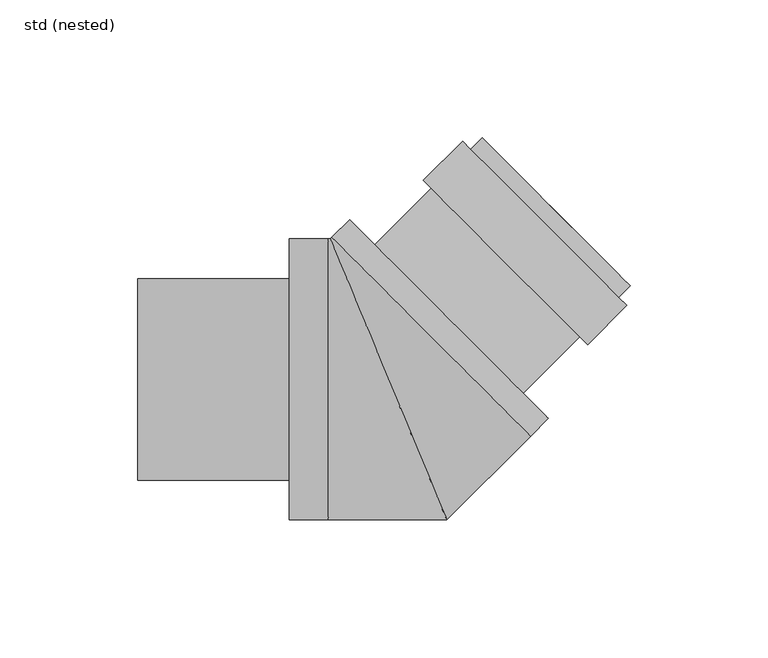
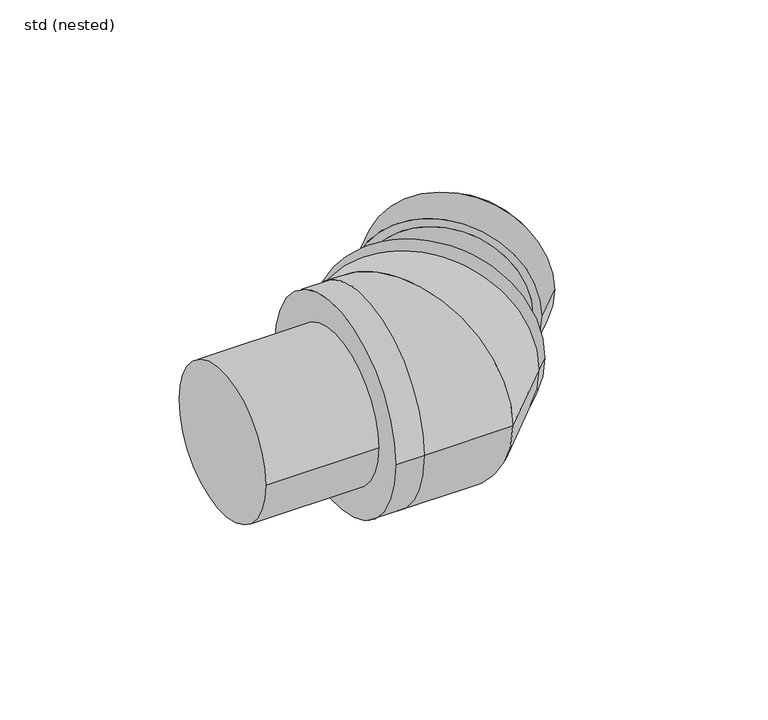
"""IFC4 building model written with IfcOpenShell, lengths in millimetres: pipe fitting geometry, ZZZ_do not use_PIF_ST_WPB_GM-X compound pipe bend_ACO : std (nested)."""

from ifc_helpers import new_model, si_unit, point, frame, origin, origin_2d, place, context, project, spatial, polyline, circle_curve, ellipse_curve, trimmed, segment, composite_curve, outline, extrude, source, transform, mapped, element, save
from ifc_brep_helpers import plane_surface, cylinder_surface, revolved_surface, advanced_brep


def std_nested_e8fa1f76(model_context):
    return source(origin(), model_context, "Body", "SolidModel", [
        advanced_brep(
        [(26.8700577, 86.4084487, 0.0), (86.4084487, 26.8700577, 0.0), (72.1956024, 12.6572114, 0.0), (12.6572114, 72.1956024, 0.0), (87.6812409, 33.9411255, 0.0), (33.9411255, 87.6812409, 0.0), (35.0017857, 86.6205807, 0.0), (86.6205807, 35.0017857, 0.0), (48.7903679, -4.9497475, 0.0), (-4.9497475, 48.7903679, 0.0), (47.7297077, -3.8890873, 0.0), (-3.8890873, 47.7297077, 0.0), (83.5093109, 29.7691955, 0.0), (29.7691955, 83.5093109, 0.0), (15.5563492, 69.2964646, 0.0), (69.2964646, 15.5563492, 0.0)],
        [
            (0, 1, circle_curve(frame((56.6392532, 56.6392532, 0.0), z_axis=(-0.7071067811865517, -0.7071067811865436, 0.0), x_axis=(-0.7071067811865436, 0.7071067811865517, 0.0)), 42.1)),
            (1, 2),
            (2, 3, circle_curve(frame((42.4264069, 42.4264069, 0.0), z_axis=(0.7071067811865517, 0.7071067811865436, 0.0), x_axis=(-0.7071067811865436, 0.7071067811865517, 0.0)), 42.1)),
            (3, 0),
            (1, 0, circle_curve(frame((56.6392532, 56.6392532, 0.0), z_axis=(-0.7071067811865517, -0.7071067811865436, 0.0), x_axis=(-0.7071067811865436, 0.7071067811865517, 0.0)), 42.1)),
            (3, 2, circle_curve(frame((42.4264069, 42.4264069, 0.0), z_axis=(0.7071067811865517, 0.7071067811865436, 0.0), x_axis=(-0.7071067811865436, 0.7071067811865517, 0.0)), 42.1)),
            (4, 5, circle_curve(frame((60.8111832, 60.8111832, 0.0), z_axis=(0.7071067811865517, 0.7071067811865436, 0.0), x_axis=(-0.7071067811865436, 0.7071067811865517, 0.0)), 38.0)),
            (5, 4, circle_curve(frame((60.8111832, 60.8111832, 0.0), z_axis=(0.7071067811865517, 0.7071067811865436, 0.0), x_axis=(-0.7071067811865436, 0.7071067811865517, 0.0)), 38.0)),
            (6, 7, circle_curve(frame((60.8111832, 60.8111832, 0.0), z_axis=(-0.7071067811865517, -0.7071067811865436, 0.0), x_axis=(-0.7071067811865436, 0.7071067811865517, 0.0)), 36.5)),
            (7, 6, circle_curve(frame((60.8111832, 60.8111832, 0.0), z_axis=(-0.7071067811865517, -0.7071067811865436, 0.0), x_axis=(-0.7071067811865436, 0.7071067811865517, 0.0)), 36.5)),
            (8, 9, circle_curve(frame((21.9203102, 21.9203102, 0.0), z_axis=(-0.7071067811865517, -0.7071067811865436, 0.0), x_axis=(-0.7071067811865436, 0.7071067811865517, 0.0)), 38.0)),
            (9, 8, circle_curve(frame((21.9203102, 21.9203102, 0.0), z_axis=(-0.7071067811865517, -0.7071067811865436, 0.0), x_axis=(-0.7071067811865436, 0.7071067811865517, 0.0)), 38.0)),
            (10, 11, circle_curve(frame((21.9203102, 21.9203102, 0.0), z_axis=(0.7071067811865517, 0.7071067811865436, 0.0), x_axis=(-0.7071067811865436, 0.7071067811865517, 0.0)), 36.5)),
            (11, 10, circle_curve(frame((21.9203102, 21.9203102, 0.0), z_axis=(0.7071067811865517, 0.7071067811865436, 0.0), x_axis=(-0.7071067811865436, 0.7071067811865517, 0.0)), 36.5)),
            (4, 12),
            (12, 13, circle_curve(frame((56.6392532, 56.6392532, 0.0), z_axis=(0.7071067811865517, 0.7071067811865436, 0.0), x_axis=(-0.7071067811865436, 0.7071067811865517, 0.0)), 38.0)),
            (13, 5),
            (9, 14),
            (14, 15, circle_curve(frame((42.4264069, 42.4264069, 0.0), z_axis=(-0.7071067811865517, -0.7071067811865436, 0.0), x_axis=(-0.7071067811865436, 0.7071067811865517, 0.0)), 38.0)),
            (15, 8),
            (13, 12, circle_curve(frame((56.6392532, 56.6392532, 0.0), z_axis=(0.7071067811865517, 0.7071067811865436, 0.0), x_axis=(-0.7071067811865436, 0.7071067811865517, 0.0)), 38.0)),
            (15, 14, circle_curve(frame((42.4264069, 42.4264069, 0.0), z_axis=(-0.7071067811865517, -0.7071067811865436, 0.0), x_axis=(-0.7071067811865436, 0.7071067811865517, 0.0)), 38.0)),
            (6, 11),
            (10, 7),
        ],
        [
            cylinder_surface(frame((42.4264069, 42.4264069, 0.0), z_axis=(0.7071067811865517, 0.7071067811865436, 0.0), x_axis=(-0.7071067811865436, 0.7071067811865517, 0.0)), 42.1),
            plane_surface(frame((33.9411255, 87.6812409, 0.0), z_axis=(0.7071067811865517, 0.7071067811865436, 0.0), x_axis=(0.0, 0.0, 1.0))),
            plane_surface(frame((-4.9497475, 48.7903679, 0.0), z_axis=(-0.7071067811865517, -0.7071067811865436, 0.0), x_axis=(0.0, 0.0, -1.0))),
            cylinder_surface(frame((21.9203102, 21.9203102, 0.0), z_axis=(0.7071067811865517, 0.7071067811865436, 0.0), x_axis=(-0.7071067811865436, 0.7071067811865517, 0.0)), 38.0),
            revolved_surface(polyline([(35.00178568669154, 86.62058071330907, 0.0), (-3.8890873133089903, 47.72970771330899, 0.0)]), (21.9203102, 21.9203102, 0.0), (0.7071067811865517, 0.7071067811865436, 0.0)),
            plane_surface(frame((26.8700577, 86.4084487, 0.0), z_axis=(0.7071067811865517, 0.7071067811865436, 0.0), x_axis=(0.0, 0.0, 1.0))),
            plane_surface(frame((12.6572114, 72.1956024, 0.0), z_axis=(-0.7071067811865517, -0.7071067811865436, 0.0), x_axis=(0.0, 0.0, -1.0))),
        ],
        [
            (0, [[1, 2, 3, 4]]),
            (0, [[5, -4, 6, -2]]),
            (1, [[7, 8], [9, 10]]),
            (2, [[11, 12], [13, 14]]),
            (3, [[-7, 15, 16, 17]]),
            (3, [[-12, 18, 19, 20]]),
            (3, [[-8, -17, 21, -15]]),
            (3, [[-11, -20, 22, -18]]),
            (4, [[23, -13, 24, -9]]),
            (4, [[-23, -10, -24, -14]]),
            (5, [[-1, -5], [-16, -21]]),
            (6, [[-6, -3], [-19, -22]]),
        ],
    ),
        extrude(outline(composite_curve([segment(trimmed(circle_curve(origin_2d(), 36.5), [point((-36.5, 0.0))], [point((36.5, 0.0))], False, "CARTESIAN"), True, "CONTINUOUS"), segment(trimmed(circle_curve(origin_2d(), 36.5), [point((36.5, 0.0))], [point((-36.5, 0.0))], False, "CARTESIAN"), True, "CONTINUOUS")], self_intersect=False)), frame((-91.0, 0.0, 0.0), z_axis=(1.0, 0.0, 0.0), x_axis=(0.0, 1.0, 0.0)), (0.0, 0.0, 1.0), 55.0),
        advanced_brep(
        [(-20.5391052, 51.5857864, 0.0), (51.5857864, -20.5391052, 0.0), (57.9827561, -14.1421356, 0.0), (-14.1421356, 57.9827561, 0.0), (-21.9533188, -51.0, 0.0), (21.1248917, -51.0, 0.0), (-21.1248917, 51.0, 0.0), (-21.9533188, 51.0, 0.0), (-36.0, -51.0, 0.0), (-36.0, 51.0, 0.0)],
        [
            (0, 1, circle_curve(frame((15.5233406, 15.5233406, 0.0), z_axis=(0.7071067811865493, 0.7071067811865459, 0.0), x_axis=(0.7071067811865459, -0.7071067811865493, 0.0)), 51.0)),
            (1, 2),
            (2, 3, circle_curve(frame((21.9203102, 21.9203102, 0.0), z_axis=(-0.7071067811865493, -0.7071067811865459, 0.0), x_axis=(0.7071067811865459, -0.7071067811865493, 0.0)), 51.0)),
            (3, 0),
            (1, 0, circle_curve(frame((15.5233406, 15.5233406, 0.0), z_axis=(0.7071067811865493, 0.7071067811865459, 0.0), x_axis=(0.7071067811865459, -0.7071067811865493, 0.0)), 51.0)),
            (3, 2, circle_curve(frame((21.9203102, 21.9203102, 0.0), z_axis=(-0.7071067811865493, -0.7071067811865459, 0.0), x_axis=(0.7071067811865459, -0.7071067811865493, 0.0)), 51.0)),
            (4, 5),
            (5, 6, ellipse_curve(frame((0.0, 0.0, 0.0), z_axis=(-0.9238795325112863, -0.38268343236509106, 0.0), x_axis=(-0.3826834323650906, 0.9238795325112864, 0.0)), 55.2020022, 51.0)),
            (6, 7),
            (7, 4, circle_curve(frame((-21.9533188, 0.0, 0.0), z_axis=(1.0, 0.0, 0.0), x_axis=(0.0, 1.0, 0.0)), 51.0)),
            (4, 7, circle_curve(frame((-21.9533188, 0.0, 0.0), z_axis=(1.0, 0.0, 0.0), x_axis=(0.0, 1.0, 0.0)), 51.0)),
            (6, 5, ellipse_curve(frame((0.0, 0.0, 0.0), z_axis=(-0.9238795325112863, -0.38268343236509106, 0.0), x_axis=(-0.3826834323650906, 0.9238795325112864, 0.0)), 55.2020022, 51.0)),
            (5, 1),
            (0, 6),
            (8, 9, circle_curve(frame((-36.0, 0.0, 0.0), z_axis=(-1.0, 0.0, 0.0), x_axis=(0.0, 1.0, 0.0)), 51.0)),
            (9, 8, circle_curve(frame((-36.0, 0.0, 0.0), z_axis=(-1.0, 0.0, 0.0), x_axis=(0.0, 1.0, 0.0)), 51.0)),
            (7, 9),
            (8, 4),
        ],
        [
            cylinder_surface(frame((15.5233406, 15.5233406, 0.0), z_axis=(0.7071067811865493, 0.7071067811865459, 0.0), x_axis=(0.7071067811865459, -0.7071067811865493, 0.0)), 51.0),
            cylinder_surface(frame((-21.9533188, 0.0, 0.0), z_axis=(-1.0, 0.0, 0.0), x_axis=(0.0, 1.0, 0.0)), 51.0),
            cylinder_surface(frame((0.0, 0.0, 0.0), z_axis=(-0.7071067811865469, -0.7071067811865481, 0.0), x_axis=(-0.7071067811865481, 0.7071067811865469, 0.0)), 51.0),
            plane_surface(frame((57.9827561, -14.1421356, 0.0), z_axis=(0.7071067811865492, 0.7071067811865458, 0.0), x_axis=(0.0, 0.0, 1.0))),
            plane_surface(frame((-36.0, 51.0, 0.0), z_axis=(-1.0, 0.0, 0.0), x_axis=(0.0, 0.0, 1.0))),
        ],
        [
            (0, [[1, 2, 3, 4]]),
            (0, [[5, -4, 6, -2]]),
            (1, [[7, 8, 9, 10]]),
            (1, [[-7, 11, -9, 12]]),
            (2, [[-8, 13, -1, 14]]),
            (2, [[-12, -14, -5, -13]]),
            (3, [[-3, -6]]),
            (4, [[15, 16]]),
            (1, [[-10, 17, -15, 18]]),
            (1, [[-11, -18, -16, -17]]),
        ],
    ),
    ])


if __name__ == "__main__":
    model = new_model("IFC4")
    model_context = context("Model", 3, world=origin())
    ifc_project = project(units=[si_unit("LENGTHUNIT", "METRE", prefix="MILLI")], contexts=[model_context])
    site = spatial("IfcSite", under=ifc_project)
    building = spatial("IfcBuilding", under=site)
    placement = place(None, origin())
    std_nested_shape = std_nested_e8fa1f76(model_context)
    element("IfcPipeFitting", 1, ObjectType="ZZZ_do not use_PIF_ST_WPB_GM-X compound pipe bend_ACO : std (nested)", at=placement, inside=building, context=model_context, shape_type="MappedRepresentation", body=[
        mapped(std_nested_shape, transform((0.0, 0.0, 0.0), x_axis=(1.0, 0.0, 0.0), y_axis=(0.0, 1.0, 0.0), z_axis=(0.0, 0.0, 1.0))),
    ])
    save(model, "model.ifc")
